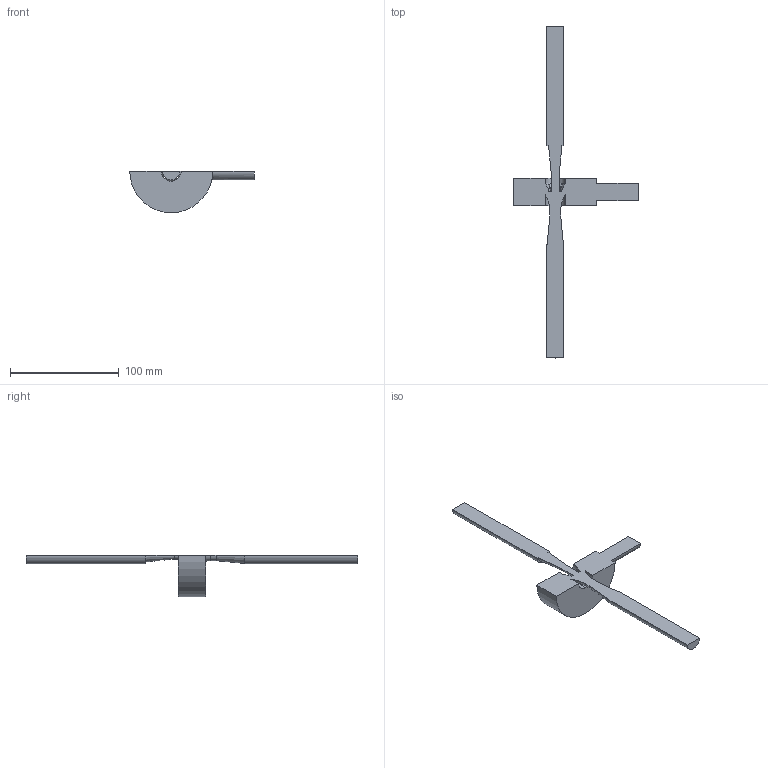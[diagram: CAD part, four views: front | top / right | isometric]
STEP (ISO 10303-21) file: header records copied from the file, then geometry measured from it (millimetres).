
FILE_DESCRIPTION (( 'STEP AP214' ), '1' );
FILE_NAME ('Exercise A.STEP', '2007-06-13T14:10:44', ( 'jim' ), ( '' ), 'SwSTEP 2.0', 'SolidWorks 2007', '' );
FILE_SCHEMA (( 'AUTOMOTIVE_DESIGN' ));
Length unit declared in the file: inch
Products named in the file (1): Exercise A
Bounding box: 114.3 x 304.8 x 38.1 mm (x, y, z)
Volume: 84263.6 mm3; surface area: 22682.6 mm2
Topology: 1 solids, 1 shells, 37 faces, 109 edges, 70 vertices
Faces by surface type: cylinder 15, plane 13, torus 6, cone 3
Entity records: 1360 total; most frequent: CARTESIAN_POINT 311, DIRECTION 226, ORIENTED_EDGE 218, EDGE_CURVE 109, AXIS2_PLACEMENT_3D 88, VERTEX_POINT 70, CIRCLE 50, VECTOR 50
